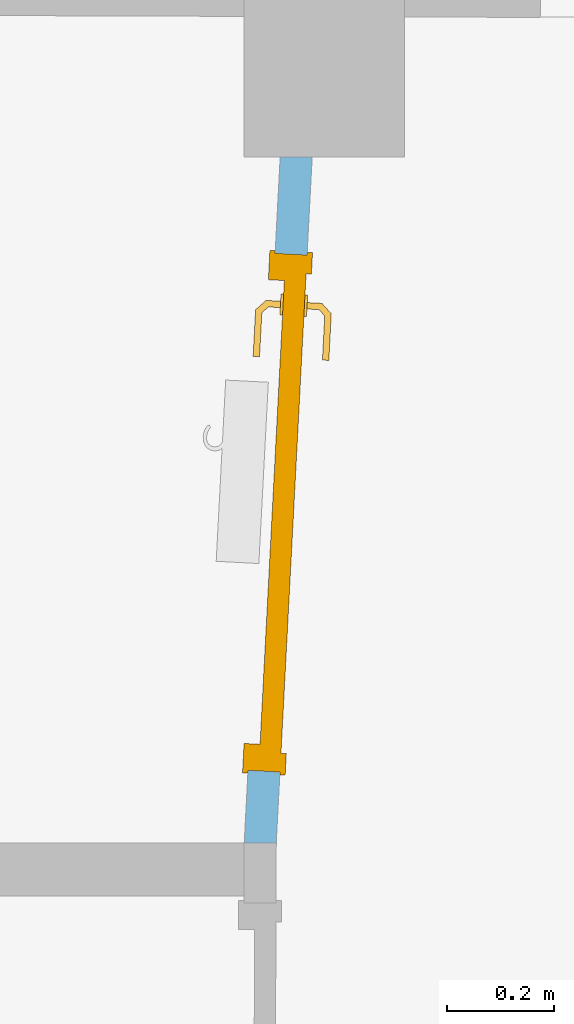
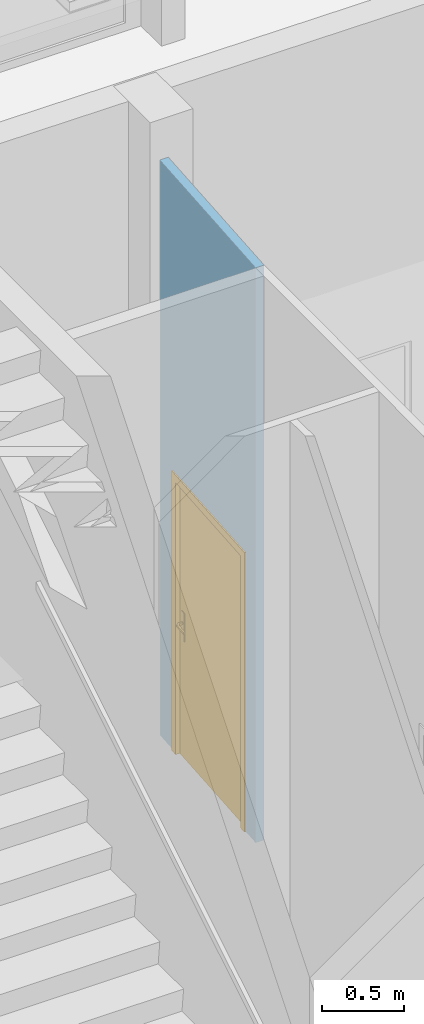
# One storey, part 43 of 128: 1 door, 1 opening, plus 1 element that does not belong to this part.
"""IFC2X3 building model written with IfcOpenShell, lengths in metres."""

import ifcopenshell
import ifcopenshell.guid

model = None  # the IFC model being written
_history = None  # IfcOwnerHistory: only IFC2X3 demands one
_inside = {}  # id of a spatial element -> (the spatial element, [elements in it])
_under = {}  # id of a project, library or spatial element -> (it, [spatial elements below it])
_declared = {}  # id of a project -> (the project, [libraries it declares])
_typed = {}  # id of a type object -> (the type object, [elements of that type])
_made_of = {}  # id of a material, layer set ... -> (it, [elements and type objects made of it])


def new_model(schema):
    """Start an empty IFC model of exactly this schema.

    Asked for "IFC4X3", IfcOpenShell would pick the latest addendum, in which some entities
    have other attributes; the version numbers below select the first issue.
    IFC2X3 requires an IfcOwnerHistory on every rooted entity: one is made here for all.
    """
    global model, _history
    if schema == "IFC4X3":
        model = ifcopenshell.file(schema_version=(4, 3, 0, 0))
    else:
        model = ifcopenshell.file(schema=schema)
    _inside.clear()
    _under.clear()
    _declared.clear()
    _typed.clear()
    _made_of.clear()
    _history = None
    if model.schema == "IFC2X3":
        org = make("IfcOrganization", Name="unknown")
        user = make(
            "IfcPersonAndOrganization",
            ThePerson=make("IfcPerson", FamilyName="unknown"),
            TheOrganization=org,
        )
        app = make(
            "IfcApplication",
            ApplicationDeveloper=org,
            Version="unknown",
            ApplicationFullName="unknown",
            ApplicationIdentifier="unknown",
        )
        _history = make(
            "IfcOwnerHistory",
            OwningUser=user,
            OwningApplication=app,
            ChangeAction="ADDED",
            CreationDate=0,
        )
    return model


def make(cls, **values):
    """One entity of the class cls with the attributes given. An attribute that is None is left unset."""
    return model.create_entity(
        cls, **{name: value for name, value in values.items() if value is not None}
    )


def entity(cls, *values):
    """Any entity or typed value of the class cls, its attributes in the order of the schema. None: left unset."""
    e = model.create_entity(cls)
    for i, value in enumerate(values):
        if value is not None:
            e[i] = value
    return e


def rooted(cls, **values):
    """An entity with a GlobalId (a new one), such as an element, a storey or a relation."""
    return make(cls, GlobalId=ifcopenshell.guid.new(), OwnerHistory=_history, **values)


def si_unit(unit_type, name, prefix=None):
    """IfcSIUnit, for example si_unit("LENGTHUNIT", "METRE", prefix="MILLI")."""
    return make("IfcSIUnit", UnitType=unit_type, Prefix=prefix, Name=name)


def converted_unit(unit_type, name, factor, base, dimensions=None, offset=None):
    """IfcConversionBasedUnit, such as the inch: factor (a typed value) times the base unit."""
    return make(
        "IfcConversionBasedUnit"
        if offset is None
        else "IfcConversionBasedUnitWithOffset",
        ConversionOffset=offset,
        Dimensions=None
        if dimensions is None
        else entity("IfcDimensionalExponents", *dimensions),
        UnitType=unit_type,
        Name=name,
        ConversionFactor=make(
            "IfcMeasureWithUnit", ValueComponent=factor, UnitComponent=base
        ),
    )


def derived_unit(unit_type, elements):
    """IfcDerivedUnit: a product of units, each with its exponent."""
    return make(
        "IfcDerivedUnit",
        Elements=[
            make("IfcDerivedUnitElement", Unit=unit, Exponent=power)
            for unit, power in elements
        ],
        UnitType=unit_type,
    )


def assignment(units):
    """IfcUnitAssignment: the units of a project."""
    return None if units is None else make("IfcUnitAssignment", Units=units)


def point(xyz):
    """IfcCartesianPoint."""
    return None if xyz is None else make("IfcCartesianPoint", Coordinates=xyz)


def direction(xyz):
    """IfcDirection."""
    return None if xyz is None else make("IfcDirection", DirectionRatios=xyz)


def frame(location, z_axis=None, x_axis=None):
    """IfcAxis2Placement3D, a coordinate frame: its origin and axes. An axis left out is left unset."""
    return make(
        "IfcAxis2Placement3D",
        Location=point(location),
        Axis=direction(z_axis),
        RefDirection=direction(x_axis),
    )


def frame_2d(location, x_axis=None):
    """IfcAxis2Placement2D, a coordinate frame in the plane: its origin and x axis."""
    return make(
        "IfcAxis2Placement2D", Location=point(location), RefDirection=direction(x_axis)
    )


def origin():
    """The frame at (0, 0, 0) with its axes left unset."""
    return frame((0.0, 0.0, 0.0))


def place(relative_to, where):
    """IfcLocalPlacement: puts the frame where relative to a parent placement (None: the world)."""
    return make(
        "IfcLocalPlacement", PlacementRelTo=relative_to, RelativePlacement=where
    )


def context(
    kind, dimensions, precision=None, world=None, true_north=None, identifier=None
):
    """IfcGeometricRepresentationContext, for example the 3D "Model" context."""
    return make(
        "IfcGeometricRepresentationContext",
        ContextIdentifier=identifier,
        ContextType=kind,
        CoordinateSpaceDimension=dimensions,
        Precision=precision,
        WorldCoordinateSystem=world,
        TrueNorth=true_north,
    )


def subcontext(parent, identifier, kind, view, scale=None):
    """IfcGeometricRepresentationSubContext, for example "Body" below "Model"."""
    return make(
        "IfcGeometricRepresentationSubContext",
        ContextIdentifier=identifier,
        ContextType=kind,
        ParentContext=parent,
        TargetScale=scale,
        TargetView=view,
    )


def project(units=None, contexts=None):
    """IfcProject with its units and contexts."""
    return rooted(
        "IfcProject",
        Name="project",
        RepresentationContexts=contexts,
        UnitsInContext=assignment(units),
    )


def spatial(cls, under=None, at=None, **own):
    """A site, building, storey or space (cls), placed at a placement, below another one or the project."""
    s = rooted(cls, ObjectPlacement=at, **own)
    if under is not None:
        _under.setdefault(under.id(), (under, []))[1].append(s)
    return s


def polyline(points):
    """IfcPolyline through the points."""
    return make("IfcPolyline", Points=[point(p) for p in points])


def profile(cls, at=None, kind="AREA", **sizes):
    """A parametric profile (cls). Its sizes go by their IFC names, for example OverallWidth=200.0."""
    return make(cls, ProfileType=kind, Position=at, **sizes)


def rectangle(**sizes):
    """IfcRectangleProfileDef."""
    return profile("IfcRectangleProfileDef", **sizes)


def outline(outer, holes=None, kind="AREA"):
    """IfcArbitraryClosedProfileDef: a profile drawn as a closed curve; with holes, ...WithVoids."""
    if holes is None:
        return make("IfcArbitraryClosedProfileDef", ProfileType=kind, OuterCurve=outer)
    return make(
        "IfcArbitraryProfileDefWithVoids",
        ProfileType=kind,
        OuterCurve=outer,
        InnerCurves=holes,
    )


def extrude(swept, where, along, depth):
    """IfcExtrudedAreaSolid: the profile swept, set in the frame where, extruded along a direction by depth."""
    return make(
        "IfcExtrudedAreaSolid",
        SweptArea=swept,
        Position=where,
        ExtrudedDirection=direction(along),
        Depth=depth,
    )


def clip(a, b, op="DIFFERENCE"):
    """IfcBooleanClippingResult: the solid a cut by the half space b."""
    return make(
        "IfcBooleanClippingResult", Operator=op, FirstOperand=a, SecondOperand=b
    )


def bounded_halfspace(plane, agree, where, boundary):
    """IfcPolygonalBoundedHalfSpace: a half space limited to a polygon's prism."""
    return make(
        "IfcPolygonalBoundedHalfSpace",
        BaseSurface=make("IfcPlane", Position=plane),
        AgreementFlag=agree,
        Position=where,
        PolygonalBoundary=boundary,
    )


def faces_of(points, faces, orient=None, outer=None):
    """IfcFace entities. A face is a list of loops; a loop is a list of indices into points, from 0.

    orient and outer hold one flag for each loop. By default every Orientation is true, the
    first loop of a face is its IfcFaceOuterBound and the others are IfcFaceBound.
    """
    made = []
    for i, loops in enumerate(faces):
        bounds = []
        for j, loop in enumerate(loops):
            is_outer = j == 0 if outer is None else outer[i][j]
            bounds.append(
                make(
                    "IfcFaceOuterBound" if is_outer else "IfcFaceBound",
                    Bound=make("IfcPolyLoop", Polygon=[points[k] for k in loop]),
                    Orientation=True if orient is None else orient[i][j],
                )
            )
        made.append(make("IfcFace", Bounds=bounds))
    return made


def faceted_brep(points, faces, orient=None, outer=None, voids=None):
    """IfcFacetedBrep: a solid bounded by flat faces; with voids (closed shells), ...WithVoids."""
    shared = [point(p) for p in points]
    hull = make("IfcClosedShell", CfsFaces=faces_of(shared, faces, orient, outer))
    if voids is None:
        return make("IfcFacetedBrep", Outer=hull)
    return make(
        "IfcFacetedBrepWithVoids",
        Outer=hull,
        Voids=[
            make(cls, CfsFaces=faces_of(shared, fs, o, b)) for cls, fs, o, b in voids
        ],
    )


def shape(context_of_items, identifier, shape_type, items):
    """IfcShapeRepresentation: the items that make up one representation, for example the "Body"."""
    return make(
        "IfcShapeRepresentation",
        ContextOfItems=context_of_items,
        RepresentationIdentifier=identifier,
        RepresentationType=shape_type,
        Items=items,
    )


def source(mapping_origin, context_of_items, identifier, shape_type, items):
    """IfcRepresentationMap: a shape defined once, which mapped items show again and again."""
    return make(
        "IfcRepresentationMap",
        MappingOrigin=mapping_origin,
        MappedRepresentation=shape(context_of_items, identifier, shape_type, items),
    )


def transform(
    local_origin,
    x_axis=None,
    y_axis=None,
    z_axis=None,
    scale=None,
    scale2=None,
    scale3=None,
    uniform=True,
):
    """IfcCartesianTransformationOperator3D, or its non-uniform kind. x_axis, y_axis, z_axis: its Axis1, 2, 3."""
    if uniform:
        return make(
            "IfcCartesianTransformationOperator3D",
            Axis1=direction(x_axis),
            Axis2=direction(y_axis),
            LocalOrigin=point(local_origin),
            Scale=scale,
            Axis3=direction(z_axis),
        )
    return make(
        "IfcCartesianTransformationOperator3DnonUniform",
        Axis1=direction(x_axis),
        Axis2=direction(y_axis),
        LocalOrigin=point(local_origin),
        Scale=scale,
        Axis3=direction(z_axis),
        Scale2=scale2,
        Scale3=scale3,
    )


def mapped(mapping_source, mapping_target):
    """IfcMappedItem: shows the shape of a source again, moved by a transform."""
    return make(
        "IfcMappedItem", MappingSource=mapping_source, MappingTarget=mapping_target
    )


def material(Name=None, Category=None):
    """IfcMaterial."""
    return make("IfcMaterial", Name=Name, Category=Category)


def layer(
    of_material, thickness, ventilated=None, Name=None, Category=None, Priority=None
):
    """IfcMaterialLayer: one layer of a wall or slab, of a material (None: an air gap)."""
    return make(
        "IfcMaterialLayer",
        Material=of_material,
        LayerThickness=thickness,
        IsVentilated=ventilated,
        Name=Name,
        Category=Category,
        Priority=Priority,
    )


def layer_set(layers, Name=None):
    """IfcMaterialLayerSet."""
    return make("IfcMaterialLayerSet", MaterialLayers=layers, LayerSetName=Name)


def layer_usage(for_layer_set, set_direction, sense, offset, extent=None):
    """IfcMaterialLayerSetUsage: how a layer set lies in its element."""
    return make(
        "IfcMaterialLayerSetUsage",
        ForLayerSet=for_layer_set,
        LayerSetDirection=set_direction,
        DirectionSense=sense,
        OffsetFromReferenceLine=offset,
        ReferenceExtent=extent,
    )


def made_of(thing, what):
    """Note that an element or type object is made of a material, layer set ...; save() writes the relation."""
    if what is not None:
        _made_of.setdefault(what.id(), (what, []))[1].append(thing)
    return thing


def type_object(cls, material=None, **own):
    """A type object (cls), such as IfcWallType, which elements share."""
    return made_of(rooted(cls, **own), material)


def type_shapes(of_type, sources):
    """Give a type object the sources (RepresentationMaps) that its elements show as mapped items."""
    of_type.RepresentationMaps = sources


def element(
    cls,
    number,
    at=None,
    inside=None,
    cuts=None,
    type_object=None,
    material=None,
    context=None,
    identifier="Body",
    shape_type=None,
    held_by="IfcProductDefinitionShape",
    body=None,
    shapes=None,
    **own,
):
    """One element of the class cls, such as IfcWall. Its Tag is "e" and its number.

    at: its placement. inside: the storey or other place that contains it. cuts: it is an
    opening in that element (IfcRelVoidsElement). A single representation is given by context,
    identifier, shape_type and body (its items); several are given by shapes. held_by: the class
    of the entity that holds the representations. save() writes the other relations.
    """
    e = rooted(cls, Tag="e%d" % number, ObjectPlacement=at, **own)
    if body is not None:
        shapes = [shape(context, identifier, shape_type, body)]
    if shapes is not None:
        e.Representation = make(held_by, Representations=shapes)
    if inside is not None:
        _inside.setdefault(inside.id(), (inside, []))[1].append(e)
    if cuts is not None:
        rooted(
            "IfcRelVoidsElement", RelatingBuildingElement=cuts, RelatedOpeningElement=e
        )
    if type_object is not None:
        _typed.setdefault(type_object.id(), (type_object, []))[1].append(e)
    return made_of(e, material)


def fill(opening, filler):
    """IfcRelFillsElement: the door or window that sits in an opening."""
    return rooted(
        "IfcRelFillsElement",
        RelatingOpeningElement=opening,
        RelatedBuildingElement=filler,
    )


def aggregate(whole, parts):
    """IfcRelAggregates: a whole, such as a stair, and the parts it consists of."""
    return rooted("IfcRelAggregates", RelatingObject=whole, RelatedObjects=parts)


def save(model, path):
    """Write the relations noted so far, then the file.

    IfcRelAggregates (storeys below a building ...), IfcRelContainedInSpatialStructure (elements
    in a storey), IfcRelDefinesByType, IfcRelAssociatesMaterial and IfcRelDeclares: one each for
    every whole, place, type object, material and project.
    """
    for whole, parts in _under.values():
        aggregate(whole, parts)
    for where, things in _inside.values():
        rooted(
            "IfcRelContainedInSpatialStructure",
            RelatedElements=things,
            RelatingStructure=where,
        )
    for kind, things in _typed.values():
        rooted("IfcRelDefinesByType", RelatedObjects=things, RelatingType=kind)
    for what, things in _made_of.values():
        rooted("IfcRelAssociatesMaterial", RelatedObjects=things, RelatingMaterial=what)
    for by, libraries in _declared.values():
        rooted("IfcRelDeclares", RelatingContext=by, RelatedDefinitions=libraries)
    model.write(path)


model = new_model("IFC2X3")

# Units and contexts
model_context = context("Model", 3, precision=1e-05, world=origin(), true_north=direction((6.123031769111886e-17, 1.0)))
body_context = subcontext(model_context, "Body", "Model", "MODEL_VIEW")
ifc_project = project(units=[si_unit("LENGTHUNIT", "METRE"), si_unit("AREAUNIT", "SQUARE_METRE"), converted_unit("PLANEANGLEUNIT", "DEGREE", entity("IfcPlaneAngleMeasure", 0.017453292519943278), si_unit("PLANEANGLEUNIT", "RADIAN"), dimensions=[0, 0, 0, 0, 0, 0, 0]), derived_unit("THERMALTRANSMITTANCEUNIT", [(si_unit("MASSUNIT", "GRAM", prefix="KILO"), 1), (si_unit("THERMODYNAMICTEMPERATUREUNIT", "KELVIN"), -1), (si_unit("TIMEUNIT", "SECOND"), -3)])], contexts=[model_context])

# Site, building, storey
site_placement = place(None, origin())
site = spatial("IfcSite", under=ifc_project, at=site_placement, Name="Default", CompositionType="ELEMENT")
building_placement = place(site_placement, origin())
building = spatial("IfcBuilding", under=site, at=building_placement, CompositionType="ELEMENT")
storey_placement = place(building_placement, origin())
storey = spatial("IfcBuildingStorey", under=building, at=storey_placement, Name="00_RDC CAF", CompositionType="ELEMENT", Elevation=2.4982504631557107e-13)

# Wall, opening, door
ifc_material_1 = material(Name="ARC - Cloison")
ifc_layer = layer(ifc_material_1, 0.06)
ifc_layer_set = layer_set([ifc_layer], Name="Mur de base:Cl_Platre_60mm")
ifc_layer_usage = layer_usage(ifc_layer_set, "AXIS2", "POSITIVE", -0.03)
wall_type = type_object("IfcWallType", Name="Mur de base:Cl_Platre_60mm", PredefinedType="STANDARD", material=ifc_layer_set)
wall_placement = place(storey_placement, frame((24.644619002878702, 135.12661555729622, 0.0), z_axis=(0.0, 0.0, 1.0), x_axis=(0.05233595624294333, 0.9986295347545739, 0.0)))
wall = element("IfcWallStandardCase", 1, at=wall_placement, inside=storey, type_object=wall_type, material=ifc_layer_usage, Name="Mur de base:Cl_Platre_60mm", ObjectType="Mur de base:Cl_Platre_60mm", context=body_context, shape_type="Clipping", body=[
    clip(extrude(outline(polyline([(0.0, 0.029999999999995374), (0.003144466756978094, -0.03000000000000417), (1.289506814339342, -0.030000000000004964), (1.2863623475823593, 0.029999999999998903), (0.0, 0.029999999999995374)])), origin(), (0.0, 0.0, 1.0), 4.277999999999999), bounded_halfspace(frame((1.2895068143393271, -0.03000000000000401, 4.277999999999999), z_axis=(-0.9986295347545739, -0.05233595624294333, 0.0), x_axis=(0.0, 0.0, -1.0)), True, frame((1.2895068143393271, -0.03000000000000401, 4.277999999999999), z_axis=(-0.9986295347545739, -0.05233595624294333, 0.0), x_axis=(0.0, 0.0, -1.0)), polyline([(0.0, 0.0), (0.0, -0.06008234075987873), (4.277999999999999, -0.06008234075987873), (4.277999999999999, 0.0), (0.0, 0.0)]))),
])
opening_placement = place(wall_placement, frame((1.1058868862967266, 0.02999999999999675, 0.0)))
opening = element("IfcOpeningElement", 2, at=opening_placement, cuts=wall, Name="P_Recouvrement_Simple:P_Int_Simple_Pleine_900x2040mm:1", ObjectType="Opening", context=body_context, shape_type="SweptSolid", body=[
    extrude(rectangle(XDim=2.07500000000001, YDim=0.9699999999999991, at=frame_2d((1.037500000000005, 0.48499999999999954), x_axis=(1.0, 0.0))), frame((0.0, 0.0, 0.0), z_axis=(0.0, -1.0, 0.0), x_axis=(0.0, 0.0, 1.0)), (0.0, 0.0, 1.0), 0.06),
])
ifc_material_2 = material(Name="ARC - M.In - Blanc")
door_style = type_object("IfcDoorStyle", Name="P_Recouvrement_Simple:P_Int_Simple_Pleine_900x2040mm", ConstructionType="NOTDEFINED", OperationType="NOTDEFINED", ParameterTakesPrecedence=False, Sizeable=False, material=ifc_material_2)
shared_shape = source(origin(), body_context, "Body", "Brep", [
    faceted_brep([(0.9429747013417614, 0.044999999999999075, 0.9922195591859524), (0.9470252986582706, 0.04499999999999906, 0.9922195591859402), (0.951000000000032, 0.04499999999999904, 0.9929999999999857), (0.9510000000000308, 0.04499999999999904, 1.0069999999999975), (0.9470252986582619, 0.04499999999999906, 1.0077804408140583), (0.9429747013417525, 0.044999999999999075, 1.0077804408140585), (0.9389999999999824, 0.044999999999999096, 1.0069999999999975), (0.9389999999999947, 0.044999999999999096, 0.9930000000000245), (0.9389999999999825, 0.067485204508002, 1.0069999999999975), (0.9389999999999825, 0.06748520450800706, 0.9930000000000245), (0.9429747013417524, 0.06913157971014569, 1.0077804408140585), (0.9470252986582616, 0.07080939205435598, 1.0077804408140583), (0.9308389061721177, 0.08699578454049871, 1.0077804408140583), (0.9291610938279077, 0.08294518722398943, 1.0077804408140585), (0.9510000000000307, 0.07245576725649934, 1.0069999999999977), (0.951000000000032, 0.07245576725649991, 0.9929999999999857), (0.9470252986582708, 0.07080939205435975, 0.9922195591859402), (0.9429747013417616, 0.06913157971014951, 0.9922195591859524), (0.9291610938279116, 0.08294518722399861, 0.9922195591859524), (0.9308389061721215, 0.0869957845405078, 0.9922195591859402), (0.9275147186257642, 0.07897048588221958, 1.0069999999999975), (0.9275147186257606, 0.07897048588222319, 0.9930000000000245), (0.932485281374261, 0.09097048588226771, 1.0069999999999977), (0.9324852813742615, 0.09097048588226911, 0.9929999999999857), (0.8449542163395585, 0.0829451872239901, 1.0077804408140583), (0.8449542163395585, 0.08699578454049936, 1.007780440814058), (0.8449542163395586, 0.0909704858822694, 1.006999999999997), (0.8449542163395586, 0.09097048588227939, 0.9929999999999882), (0.8449542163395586, 0.086995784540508, 0.99221955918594), (0.8449542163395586, 0.08294518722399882, 0.9922195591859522), (0.8449542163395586, 0.07897048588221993, 0.993000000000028), (0.8449542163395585, 0.07897048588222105, 1.0069999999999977), (0.8862344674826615, 0.07897048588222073, 1.0069999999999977), (0.8862344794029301, 0.07897048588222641, 0.9930000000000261), (0.8870576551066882, 0.08497048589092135, 1.0078786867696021), (0.8925547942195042, 0.09097048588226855, 1.0069999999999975), (0.8925547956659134, 0.09097048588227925, 0.9929999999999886), (0.8870576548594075, 0.08497048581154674, 0.9921213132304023)], [[[0, 1, 2, 3, 4, 5, 6, 7]], [[8, 9, 7, 6]], [[5, 10, 8, 6]], [[5, 4, 11, 12, 13, 10]], [[3, 14, 11, 4]], [[14, 3, 2, 15]], [[2, 1, 16, 15]], [[1, 0, 17, 18, 19, 16]], [[0, 7, 9, 17]], [[20, 21, 9, 8]], [[8, 10, 13, 20]], [[14, 22, 12, 11]], [[23, 22, 14, 15]], [[15, 16, 19, 23]], [[17, 9, 21, 18]], [[24, 25, 26, 27, 28, 29, 30, 31]], [[21, 20, 32, 31, 30, 33]], [[34, 24, 32]], [[25, 34, 35]], [[13, 32, 20]], [[24, 31, 32]], [[25, 35, 26]], [[35, 12, 22]], [[34, 12, 35]], [[34, 13, 12]], [[34, 32, 13]], [[24, 34, 25]], [[22, 23, 36, 27, 26, 35]], [[37, 28, 36]], [[36, 28, 27]], [[36, 23, 19]], [[18, 33, 37]], [[33, 18, 21]], [[30, 29, 33]], [[37, 29, 28]], [[37, 33, 29]], [[37, 36, 19]], [[18, 37, 19]]]),
    faceted_brep([(0.9429747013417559, -0.005000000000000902, 1.0077804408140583), (0.9470252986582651, -0.0050000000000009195, 1.0077804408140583), (0.9510000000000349, -0.005000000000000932, 1.0069999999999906), (0.9510000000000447, -0.005000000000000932, 0.9929999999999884), (0.9470252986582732, -0.0050000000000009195, 0.9922195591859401), (0.9429747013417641, -0.005000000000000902, 0.9922195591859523), (0.9389999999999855, -0.005000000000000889, 0.9930000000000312), (0.9389999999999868, -0.005000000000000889, 1.006999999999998), (0.9470252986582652, -0.031004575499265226, 1.0077804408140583), (0.9510000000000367, -0.03265095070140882, 1.0069999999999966), (0.942974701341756, -0.029326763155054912, 1.0077804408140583), (0.9292986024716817, -0.04300286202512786, 1.0077804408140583), (0.9309764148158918, -0.04705345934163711, 1.0077804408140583), (0.938999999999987, -0.027680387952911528, 1.006999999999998), (0.9389999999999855, -0.027680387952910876, 0.9930000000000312), (0.9429747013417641, -0.029326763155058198, 0.9922195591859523), (0.9470252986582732, -0.031004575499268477, 0.9922195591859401), (0.9309764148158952, -0.04705345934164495, 0.9922195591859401), (0.9292986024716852, -0.043002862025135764, 0.9922195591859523), (0.9510000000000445, -0.03265095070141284, 0.9929999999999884), (0.9326227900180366, -0.05102816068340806, 1.0069999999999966), (0.9276522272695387, -0.03902816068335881, 1.006999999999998), (0.927652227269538, -0.039028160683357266, 0.9930000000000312), (0.9326227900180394, -0.05102816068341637, 0.9929999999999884), (0.8449813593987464, -0.05102816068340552, 1.0069999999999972), (0.8449813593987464, -0.04705345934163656, 1.0077804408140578), (0.8449813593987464, -0.0430028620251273, 1.007780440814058), (0.8449813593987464, -0.039028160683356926, 1.0069999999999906), (0.8449813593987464, -0.039028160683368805, 0.9930000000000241), (0.8449813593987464, -0.04300286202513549, 0.992219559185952), (0.8449813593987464, -0.04705345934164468, 0.9922195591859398), (0.8449813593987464, -0.051028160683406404, 0.9929999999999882), (0.8871399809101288, -0.045028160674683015, 1.007878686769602), (0.8926923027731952, -0.051028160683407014, 1.0069999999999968), (0.8863167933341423, -0.03902816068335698, 1.0069999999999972), (0.8863167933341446, -0.039028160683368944, 0.9930000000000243), (0.8871399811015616, -0.04502816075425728, 0.9921213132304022), (0.8926923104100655, -0.051028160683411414, 0.9929999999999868)], [[[0, 1, 2, 3, 4, 5, 6, 7]], [[2, 1, 8, 9]], [[1, 0, 10, 11, 12, 8]], [[0, 7, 13, 10]], [[14, 13, 7, 6]], [[5, 15, 14, 6]], [[5, 4, 16, 17, 18, 15]], [[3, 19, 16, 4]], [[9, 19, 3, 2]], [[9, 8, 12, 20]], [[10, 13, 21, 11]], [[22, 21, 13, 14]], [[14, 15, 18, 22]], [[16, 19, 23, 17]], [[20, 23, 19, 9]], [[24, 25, 26, 27, 28, 29, 30, 31]], [[32, 25, 33]], [[33, 25, 24]], [[33, 20, 12]], [[11, 34, 32]], [[34, 11, 21]], [[27, 26, 34]], [[32, 26, 25]], [[32, 34, 26]], [[32, 33, 12]], [[11, 32, 12]], [[21, 22, 35, 28, 27, 34]], [[36, 29, 35]], [[30, 36, 37]], [[18, 35, 22]], [[29, 28, 35]], [[30, 37, 31]], [[37, 17, 23]], [[36, 17, 37]], [[36, 18, 17]], [[36, 35, 18]], [[29, 36, 30]], [[23, 20, 33, 24, 31, 37]]]),
    faceted_brep([(0.9650000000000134, 0.03999999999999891, 0.870000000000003), (0.9650000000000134, 0.03999999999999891, 1.0800000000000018), (0.9553527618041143, 0.03999999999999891, 1.0839960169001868), (0.9450000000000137, 0.03999999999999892, 1.0853589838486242), (0.934647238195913, 0.039999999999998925, 1.083996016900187), (0.925000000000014, 0.039999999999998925, 1.0800000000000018), (0.9250000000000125, 0.039999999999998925, 0.8700000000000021), (0.9346472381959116, 0.039999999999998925, 0.866003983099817), (0.9450000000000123, 0.03999999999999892, 0.8646410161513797), (0.955352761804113, 0.03999999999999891, 0.8660039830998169), (0.9450000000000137, 0.04499999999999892, 1.0853589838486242), (0.9553527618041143, 0.04499999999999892, 1.0839960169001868), (0.9650000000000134, 0.044999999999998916, 1.0800000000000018), (0.9650000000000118, 0.044999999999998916, 0.8700000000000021), (0.955352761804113, 0.04499999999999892, 0.8660039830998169), (0.9450000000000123, 0.04499999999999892, 0.8646410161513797), (0.9346472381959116, 0.04499999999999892, 0.866003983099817), (0.9250000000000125, 0.04499999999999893, 0.8700000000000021), (0.925000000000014, 0.04499999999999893, 1.0800000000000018), (0.934647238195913, 0.04499999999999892, 1.083996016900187)], [[[0, 1, 2, 3, 4, 5, 6, 7, 8, 9]], [[10, 11, 12, 13, 14, 15, 16, 17, 18, 19]], [[4, 19, 18, 5]], [[3, 10, 19, 4]], [[2, 11, 10, 3]], [[2, 1, 12, 11]], [[13, 12, 1, 0]], [[9, 14, 13, 0]], [[8, 15, 14, 9]], [[7, 16, 15, 8]], [[7, 6, 17, 16]], [[17, 6, 5, 18]]]),
    faceted_brep([(0.9650000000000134, -0.005000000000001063, 0.8700000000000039), (0.9650000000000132, -0.005000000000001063, 1.0800000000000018), (0.955352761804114, -0.005000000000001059, 1.083996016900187), (0.9450000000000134, -0.005000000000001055, 1.0853589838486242), (0.9346472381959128, -0.0050000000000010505, 1.0839960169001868), (0.9250000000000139, -0.005000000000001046, 1.0800000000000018), (0.9250000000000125, -0.005000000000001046, 0.8700000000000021), (0.9346472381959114, -0.0050000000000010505, 0.866003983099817), (0.9450000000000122, -0.005000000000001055, 0.8646410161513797), (0.955352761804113, -0.005000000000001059, 0.866003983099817), (0.9650000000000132, 0.0, 1.0800000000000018), (0.9650000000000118, 0.0, 0.8700000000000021), (0.955352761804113, 0.0, 0.866003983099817), (0.9450000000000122, 0.0, 0.8646410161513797), (0.9346472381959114, 0.0, 0.866003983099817), (0.9250000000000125, 0.0, 0.8700000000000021), (0.9250000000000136, 0.0, 1.0800000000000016), (0.9346472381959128, 0.0, 1.0839960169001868), (0.9450000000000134, 0.0, 1.0853589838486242), (0.955352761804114, 0.0, 1.083996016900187)], [[[0, 1, 2, 3, 4, 5, 6, 7, 8, 9]], [[10, 11, 12, 13, 14, 15, 16, 17, 18, 19]], [[9, 12, 11, 0]], [[8, 13, 12, 9]], [[7, 14, 13, 8]], [[7, 6, 15, 14]], [[15, 6, 5, 16]], [[4, 17, 16, 5]], [[3, 18, 17, 4]], [[2, 19, 18, 3]], [[2, 1, 10, 19]], [[11, 10, 1, 0]]]),
    faceted_brep([(1.0050000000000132, 0.04000000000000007, 2.04), (1.0050000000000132, 0.04000000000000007, 0.0), (0.10500000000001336, 0.04000000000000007, 0.0), (0.10500000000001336, 0.04000000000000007, 2.04), (1.0050000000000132, 0.0, 2.04), (0.10500000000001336, 0.0, 2.04), (0.10500000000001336, 0.0, 0.0), (1.0050000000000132, 0.0, 0.0)], [[[0, 1, 2, 3]], [[4, 5, 6, 7]], [[3, 5, 4, 0]], [[2, 6, 5, 3]], [[1, 7, 6, 2]], [[0, 4, 7, 1]]]),
    faceted_brep([(0.9900000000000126, 0.04000000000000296, 0.0), (0.9900000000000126, 0.07000000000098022, 0.0), (1.0450000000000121, 0.07000000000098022, 0.0), (1.0450000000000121, 0.06000000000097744, 0.0), (1.0400000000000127, 0.06000000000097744, 0.0), (1.0400000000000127, 0.0, 0.0), (1.0450000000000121, 0.0, 0.0), (1.0450000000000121, -0.009999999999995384, 0.0), (1.0050000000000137, -0.009999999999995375, 0.0), (1.0050000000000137, 0.04000000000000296, 0.0), (1.0050000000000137, 0.04000000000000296, 2.0400000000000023), (0.10500000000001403, 0.04000000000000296, 2.0400000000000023), (0.10500000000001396, 0.04000000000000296, 0.0), (0.12000000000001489, 0.04000000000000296, 0.0), (0.12000000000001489, 0.04000000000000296, 2.0250000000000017), (0.9900000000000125, 0.04000000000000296, 2.0250000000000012), (1.0050000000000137, -0.009999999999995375, 2.0400000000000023), (1.0450000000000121, -0.009999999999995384, 2.080000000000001), (0.06500000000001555, -0.009999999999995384, 2.080000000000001), (0.06500000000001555, -0.009999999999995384, 0.0), (0.10500000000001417, -0.009999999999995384, 0.0), (0.10500000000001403, -0.009999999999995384, 2.0400000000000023), (1.0450000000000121, 0.0, 2.080000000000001), (1.0400000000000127, 0.0, 2.0750000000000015), (0.07000000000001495, 0.0, 2.0750000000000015), (0.07000000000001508, 0.0, 0.0), (0.06500000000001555, 0.0, 0.0), (0.06500000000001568, 0.0, 2.080000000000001), (1.0400000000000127, 0.06000000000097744, 2.0750000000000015), (1.0450000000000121, 0.06000000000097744, 2.080000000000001), (0.06500000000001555, 0.06000000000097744, 2.080000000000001), (0.0650000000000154, 0.06000000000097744, 0.0), (0.07000000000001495, 0.06000000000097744, 0.0), (0.07000000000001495, 0.06000000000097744, 2.0750000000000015), (1.0450000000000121, 0.07000000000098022, 2.080000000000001), (0.9900000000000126, 0.07000000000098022, 2.0250000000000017), (0.12000000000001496, 0.07000000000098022, 2.0250000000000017), (0.1200000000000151, 0.07000000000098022, 0.0), (0.06500000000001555, 0.07000000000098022, 0.0), (0.06500000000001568, 0.07000000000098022, 2.080000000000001)], [[[0, 1, 2, 3, 4, 5, 6, 7, 8, 9]], [[9, 10, 11, 12, 13, 14, 15, 0]], [[8, 16, 10, 9]], [[7, 17, 18, 19, 20, 21, 16, 8]], [[6, 22, 17, 7]], [[5, 23, 24, 25, 26, 27, 22, 6]], [[4, 28, 23, 5]], [[3, 29, 30, 31, 32, 33, 28, 4]], [[2, 34, 29, 3]], [[1, 35, 36, 37, 38, 39, 34, 2]], [[0, 15, 35, 1]], [[14, 13, 37, 36]], [[13, 12, 20, 19, 26, 25, 32, 31, 38, 37]], [[21, 20, 12, 11]], [[27, 26, 19, 18]], [[33, 32, 25, 24]], [[39, 38, 31, 30]], [[16, 21, 11, 10]], [[22, 27, 18, 17]], [[28, 33, 24, 23]], [[34, 39, 30, 29]], [[15, 14, 36, 35]]]),
])
type_shapes(door_style, [shared_shape])
door_placement = place(opening_placement, frame((-1.0400000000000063, -0.05999999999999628, 0.0)))
door = element("IfcDoor", 3, at=door_placement, inside=storey, type_object=door_style, material=ifc_material_2, Name="P_Recouvrement_Simple:P_Int_Simple_Pleine_900x2040mm", ObjectType="P_Recouvrement_Simple:P_Int_Simple_Pleine_900x2040mm", OverallHeight=2.07500000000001, OverallWidth=0.9699999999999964, context=body_context, shape_type="MappedRepresentation", body=[
    mapped(shared_shape, transform((0.0, 0.0, 0.0), scale=1.0)),
])
fill(opening, door)

save(model, "model.ifc")
